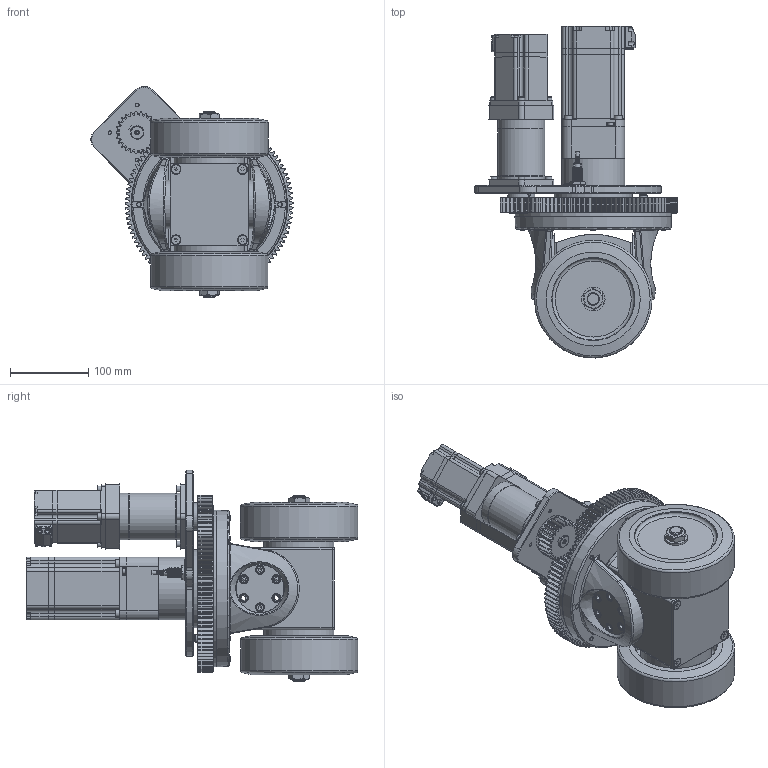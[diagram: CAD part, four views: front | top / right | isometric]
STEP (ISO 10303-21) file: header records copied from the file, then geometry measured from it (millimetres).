
FILE_DESCRIPTION (( 'STEP AP214' ), '1' );
FILE_NAME ('2019-4-26差分器立式舵轮总成150.STEP', '2019-05-08T14:07:21', ( '' ), ( '' ), 'SwSTEP 2.0', 'SolidWorks 2016', '' );
FILE_SCHEMA (( 'AUTOMOTIVE_DESIGN' ));
Length unit declared in the file: millimetre
Products named in the file (1): 2019-4-26差分器立式舵轮总成150
Bounding box: 258.05 x 423.7 x 270.06 mm (x, y, z)
Surface area: 560654 mm2 (no closed solid volume)
Topology: 0 solids, 134 shells, 1618 faces, 5652 edges, 3956 vertices
Faces by surface type: cylinder 785, plane 521, cone 211, bspline 52, torus 49
Full cylindrical faces by diameter (mm): 2.7 x2, 3.2 x4, 3.3 x1, 4.2 x3, 4.5 x10, 4.7 x5, 5 x2, 5.1 x2, 5.5 x3, 6 x6, 6.8 x16, 7 x4, 8.5 x8, 8.9 x1, 9.5 x1, 10 x5, 11 x18, 11.34 x4, 11.5 x1, 16 x3, 30 x2, 35 x1, 50 x1, 59.8 x1, 60 x2, 62 x2, 80 x2, 90 x2, 100 x2, 105 x4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
Entity records: 92492 total; most frequent: CARTESIAN_POINT 28549, DIRECTION 9925, ORIENTED_EDGE 8208, EDGE_CURVE 5291, VERTEX_POINT 3865, AXIS2_PLACEMENT_3D 3864, CIRCLE 2297, LINE 2197
